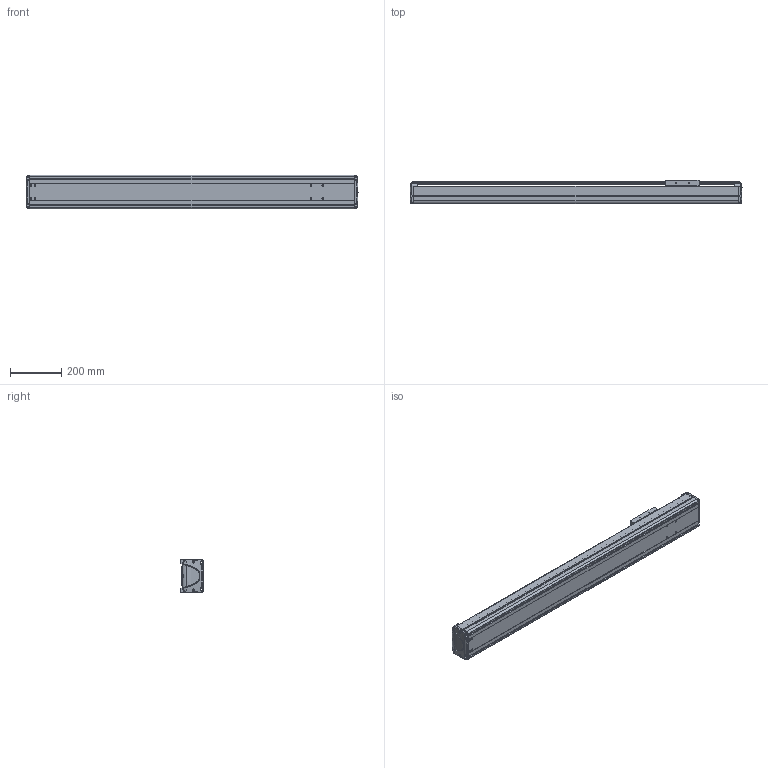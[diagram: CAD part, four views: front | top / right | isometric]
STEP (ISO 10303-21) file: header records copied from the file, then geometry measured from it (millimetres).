
FILE_DESCRIPTION((''),'2;1');
FILE_NAME('BE30E-ST-M_N-95_IGS_PRT','2017-06-17T',(' '),(''),'PRO/ENGINEER BY PARAMETRIC TECHNOLOGY CORPORATION, 2015030','PRO/ENGINEER BY PARAMETRIC TECHNOLOGY CORPORATION, 2015030','');
FILE_SCHEMA(('CONFIG_CONTROL_DESIGN'));
Length unit declared in the file: millimetre
Products named in the file (1): BE30E-ST-M_N-95_IGS_PRT
Bounding box: 1290 x 89.8 x 130 mm (x, y, z)
Volume: 3908755.1 mm3; surface area: 1536320.3 mm2
Topology: 3 solids, 90 shells, 1374 faces, 3697 edges, 2419 vertices
Faces by surface type: cylinder 631, plane 592, bspline 55, torus 42, cone 30, sphere 24
Entity records: 46155 total; most frequent: CARTESIAN_POINT 11559, DIRECTION 7136, ORIENTED_EDGE 7008, EDGE_CURVE 3677, AXIS2_PLACEMENT_3D 2588, VERTEX_POINT 2419, VECTOR 1960, LINE 1960
